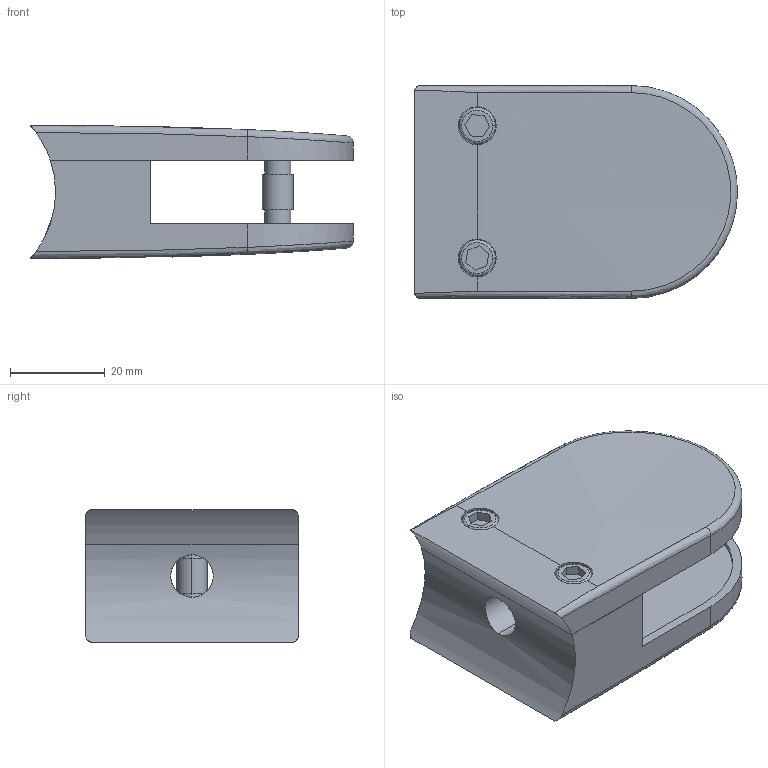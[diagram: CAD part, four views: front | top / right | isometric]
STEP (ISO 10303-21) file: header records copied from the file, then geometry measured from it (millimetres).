
FILE_DESCRIPTION (( 'STEP AP203' ), '1' );
FILE_NAME ('3D_GG4006_G 42.4 _188766100.STEP', '2024-11-04T18:21:23', ( '' ), ( '' ), 'SwSTEP 2.0', 'SolidWorks 2023', '' );
FILE_SCHEMA (( 'CONFIG_CONTROL_DESIGN' ));
Length unit declared in the file: millimetre
Products named in the file (1): 3D_GG4006_G 42.4 _188766100
Bounding box: 68.28 x 45 x 28 mm (x, y, z)
Volume: 45075.9 mm3; surface area: 18339.7 mm2
Topology: 3 solids, 3 shells, 92 faces, 214 edges, 140 vertices
Faces by surface type: plane 44, cylinder 36, bspline 8, torus 4
Entity records: 3683 total; most frequent: CARTESIAN_POINT 1493, DIRECTION 438, ORIENTED_EDGE 428, EDGE_CURVE 214, AXIS2_PLACEMENT_3D 165, VERTEX_POINT 140, EDGE_LOOP 110, VECTOR 108
